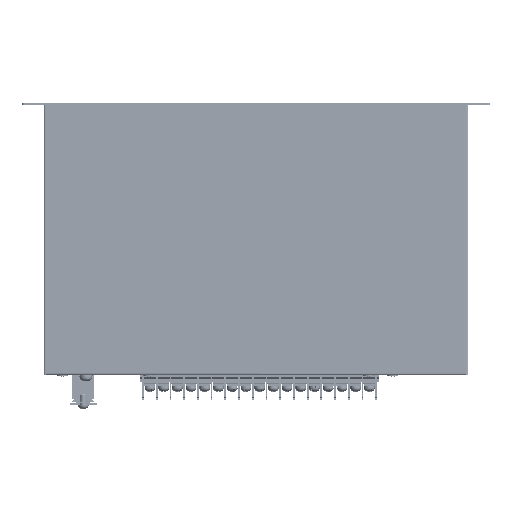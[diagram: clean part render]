
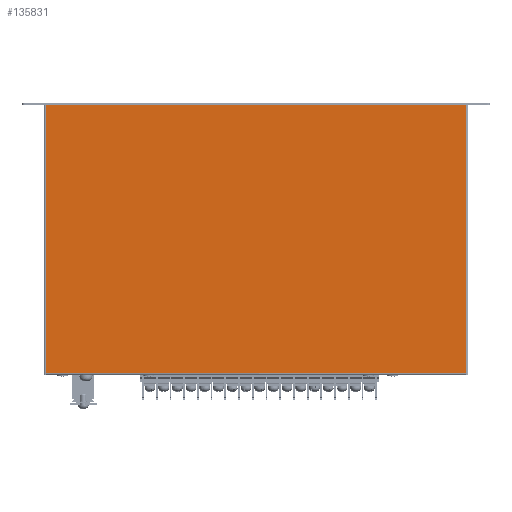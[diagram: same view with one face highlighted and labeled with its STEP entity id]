
A CAD part, front view. The second image highlights one B-rep face of the part: STEP entity #135831.
In plain terms, the highlighted planar face has unit normal (0, -1, 0).
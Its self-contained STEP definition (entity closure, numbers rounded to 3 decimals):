
#23764 = VERTEX_POINT ( 'NONE', #175769 ) ;
#27462 = AXIS2_PLACEMENT_3D ( 'NONE', #53033, #181831, #176823 ) ;
#39414 = CARTESIAN_POINT ( 'NONE',  ( 116.75, 0., -75. ) ) ;
#47455 = ORIENTED_EDGE ( 'NONE', *, *, #216207, .F. ) ;
#50281 = VERTEX_POINT ( 'NONE', #183665 ) ;
#51392 = FACE_OUTER_BOUND ( 'NONE', #288164, .T. ) ;
#53033 = CARTESIAN_POINT ( 'NONE',  ( 0., 0., 0. ) ) ;
#95662 = VECTOR ( 'NONE', #244471, 1000. ) ;
#102319 = EDGE_CURVE ( 'NONE', #329721, #50281, #222370, .T. ) ;
#107709 = EDGE_CURVE ( 'NONE', #50281, #317616, #200304, .T. ) ;
#135831 = ADVANCED_FACE ( 'NONE', ( #51392 ), #231001, .T. ) ;
#140927 = ORIENTED_EDGE ( 'NONE', *, *, #102319, .T. ) ;
#151740 = CARTESIAN_POINT ( 'NONE',  ( 116.75, 0., 75. ) ) ;
#157367 = LINE ( 'NONE', #260713, #321761 ) ;
#159361 = EDGE_CURVE ( 'NONE', #23764, #329721, #157367, .T. ) ;
#165219 = CARTESIAN_POINT ( 'NONE',  ( -118., 0., 75. ) ) ;
#168583 = DIRECTION ( 'NONE',  ( 1., 0., 0. ) ) ;
#175769 = CARTESIAN_POINT ( 'NONE',  ( -116.75, 0., 75. ) ) ;
#176823 = DIRECTION ( 'NONE',  ( 0., 0., -1. ) ) ;
#179108 = CARTESIAN_POINT ( 'NONE',  ( -116.75, 0., -73.75 ) ) ;
#181831 = DIRECTION ( 'NONE',  ( 0., -1., 0. ) ) ;
#183665 = CARTESIAN_POINT ( 'NONE',  ( 116.75, 0., -73.75 ) ) ;
#196976 = DIRECTION ( 'NONE',  ( 0., 0., 1. ) ) ;
#200304 = LINE ( 'NONE', #39414, #320079 ) ;
#213204 = VECTOR ( 'NONE', #168583, 1000. ) ;
#216207 = EDGE_CURVE ( 'NONE', #23764, #317616, #322688, .T. ) ;
#222370 = LINE ( 'NONE', #325691, #95662 ) ;
#231001 = PLANE ( 'NONE',  #27462 ) ;
#244471 = DIRECTION ( 'NONE',  ( 1., 0., 0. ) ) ;
#258114 = ORIENTED_EDGE ( 'NONE', *, *, #107709, .T. ) ;
#260713 = CARTESIAN_POINT ( 'NONE',  ( -116.75, 0., 75. ) ) ;
#265722 = DIRECTION ( 'NONE',  ( 0., 0., -1. ) ) ;
#288164 = EDGE_LOOP ( 'NONE', ( #334592, #140927, #258114, #47455 ) ) ;
#317616 = VERTEX_POINT ( 'NONE', #151740 ) ;
#320079 = VECTOR ( 'NONE', #196976, 1000. ) ;
#321761 = VECTOR ( 'NONE', #265722, 1000. ) ;
#322688 = LINE ( 'NONE', #165219, #213204 ) ;
#325691 = CARTESIAN_POINT ( 'NONE',  ( -116.75, 0., -73.75 ) ) ;
#329721 = VERTEX_POINT ( 'NONE', #179108 ) ;
#334592 = ORIENTED_EDGE ( 'NONE', *, *, #159361, .T. ) ;
